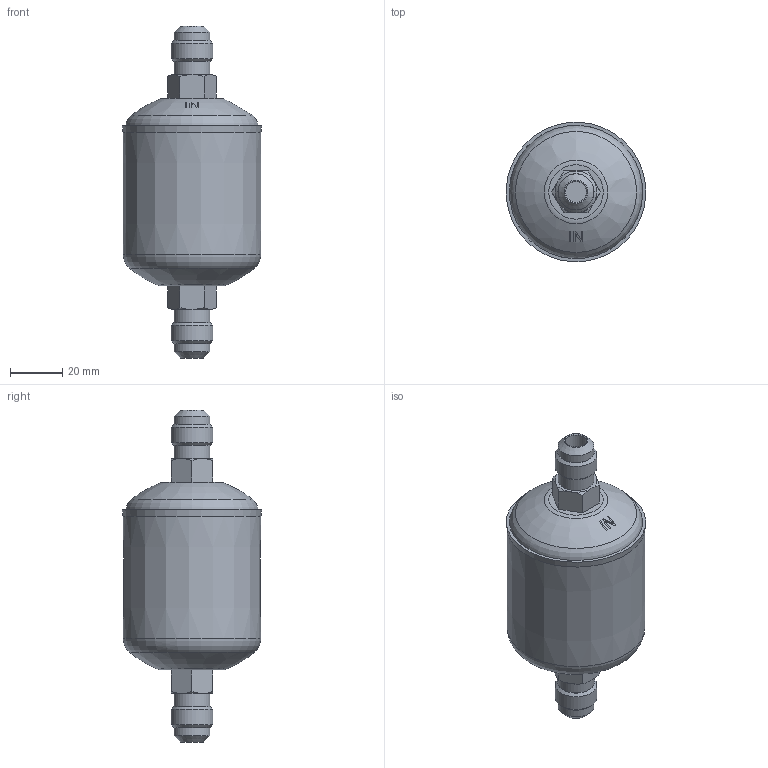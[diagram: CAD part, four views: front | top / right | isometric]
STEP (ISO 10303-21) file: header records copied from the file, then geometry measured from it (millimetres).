
FILE_DESCRIPTION(/* description */ (''),/* implementation_level */ '2;1');
FILE_NAME(/* name */ '4305_3',/* time_stamp */ '2009-08-03T14:08:39+02:00',/* author */ (''),/* organization */ (''),/* preprocessor_version */ 'ST-DEVELOPER v9',/* originating_system */ 'UGS - NX 4.0',/* authorisation */ '');
FILE_SCHEMA (('CONFIG_CONTROL_DESIGN'));
Length unit declared in the file: millimetre
Products named in the file (1): MMan5766sgag
Bounding box: 53.15 x 53.15 x 126.5 mm (x, y, z)
Volume: 93137.2 mm3; surface area: 48382.5 mm2
Topology: 1 solids, 2 shells, 275 faces, 529 edges, 354 vertices
Faces by surface type: plane 130, cylinder 85, cone 38, torus 14, bspline 8
Full cylindrical faces by diameter (mm): 2.5 x68, 8 x2, 12.9 x2, 13 x2, 13.7 x4, 15.875 x2, 30.7 x1, 32.3 x1, 47.5 x1, 48.2 x1, 50.6 x1
Entity records: 7225 total; most frequent: CARTESIAN_POINT 2342, DIRECTION 1052, ORIENTED_EDGE 674, AXIS2_PLACEMENT_3D 506, EDGE_LOOP 505, FACE_BOUND 337, EDGE_CURVE 337, VERTEX_POINT 296
